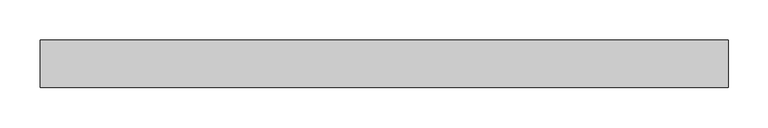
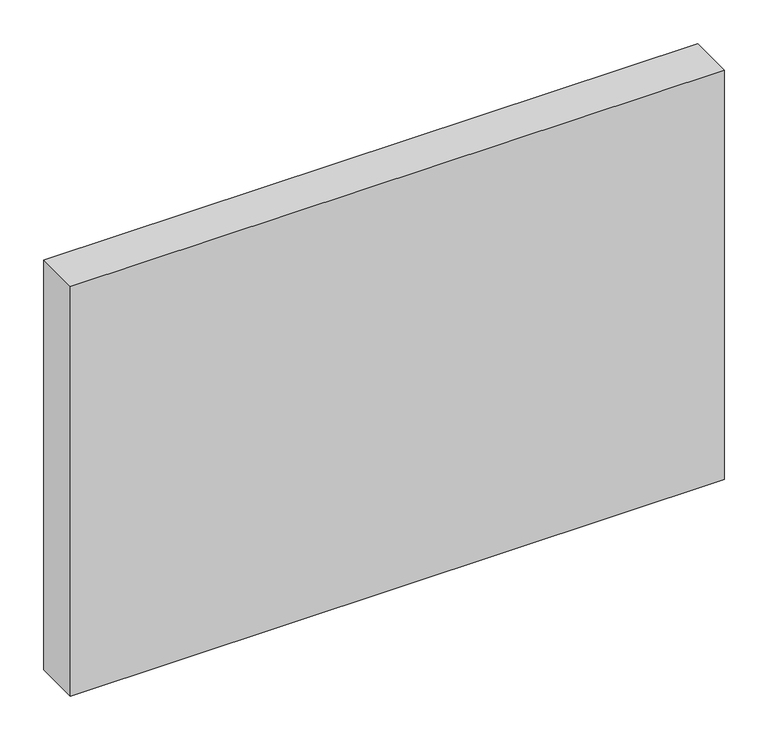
"""IFC4 building model written with IfcOpenShell, lengths in millimetres: plate geometry, Системная панель : Алюкобонд красный."""

from ifc_helpers import new_model, si_unit, origin, origin_with_axes, place, context, project, spatial, polyline, outline, extrude, source, transform, mapped, element, save


def plate_76ade5b0(model_context):
    return source(origin(), model_context, "Body", "SweptSolid", [
        extrude(outline(polyline([(430.0, -10.5), (-430.0, -10.5), (-430.0, 49.5), (430.0, 49.5), (430.0, -10.5)])), origin_with_axes(), (0.0, 0.0, 1.0), 570.0),
    ])


if __name__ == "__main__":
    model = new_model("IFC4")
    model_context = context("Model", 3, world=origin())
    ifc_project = project(units=[si_unit("LENGTHUNIT", "METRE", prefix="MILLI")], contexts=[model_context])
    site = spatial("IfcSite", under=ifc_project)
    building = spatial("IfcBuilding", under=site)
    placement = place(None, origin())
    plate_shape = plate_76ade5b0(model_context)
    element("IfcPlate", 1, ObjectType="Системная панель : Алюкобонд красный", at=placement, inside=building, context=model_context, shape_type="MappedRepresentation", body=[
        mapped(plate_shape, transform((0.0, 0.0, 0.0), x_axis=(1.0, 0.0, 0.0), y_axis=(0.0, 1.0, 0.0), z_axis=(0.0, 0.0, 1.0))),
    ])
    save(model, "model.ifc")
